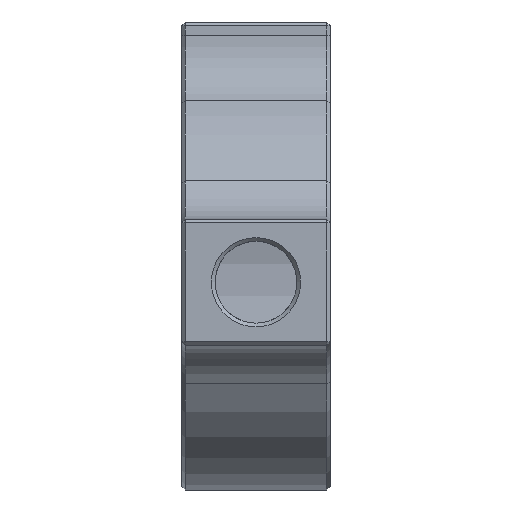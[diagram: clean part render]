
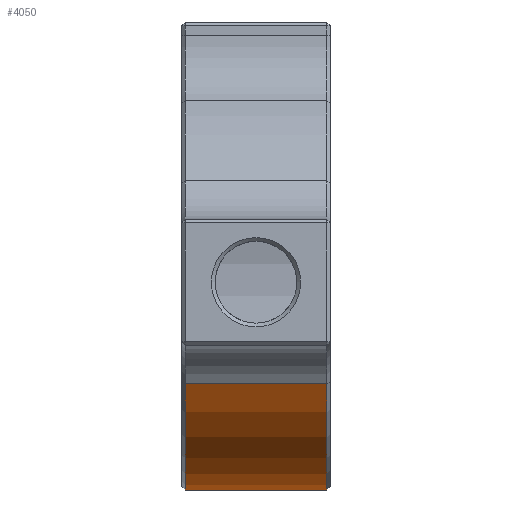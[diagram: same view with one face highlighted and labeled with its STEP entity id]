
A CAD part, left-side view. The second image highlights one B-rep face of the part: STEP entity #4050.
In plain terms, the highlighted cylindrical face has radius 28 mm (diameter 56 mm), a partial arc.
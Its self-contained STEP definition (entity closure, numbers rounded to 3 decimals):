
#242 = LINE ( 'NONE', #6822, #1316 ) ;
#275 = EDGE_CURVE ( 'NONE', #3281, #5897, #962, .T. ) ;
#399 = EDGE_CURVE ( 'NONE', #789, #1120, #4716, .T. ) ;
#691 = CYLINDRICAL_SURFACE ( 'NONE', #2591, 28. ) ;
#789 = VERTEX_POINT ( 'NONE', #5126 ) ;
#962 = CIRCLE ( 'NONE', #2321, 28. ) ;
#1120 = VERTEX_POINT ( 'NONE', #6564 ) ;
#1150 = CARTESIAN_POINT ( 'NONE',  ( -24.458, 19.5, -13.632 ) ) ;
#1316 = VECTOR ( 'NONE', #3850, 1000. ) ;
#1486 = DIRECTION ( 'NONE',  ( 0., 1., 0. ) ) ;
#2005 = DIRECTION ( 'NONE',  ( 0., -1., 0. ) ) ;
#2133 = CARTESIAN_POINT ( 'NONE',  ( 0., 19.5, 0. ) ) ;
#2321 = AXIS2_PLACEMENT_3D ( 'NONE', #2133, #2005, #4402 ) ;
#2591 = AXIS2_PLACEMENT_3D ( 'NONE', #4297, #6675, #6128 ) ;
#2738 = EDGE_CURVE ( 'NONE', #1120, #3281, #5149, .T. ) ;
#3281 = VERTEX_POINT ( 'NONE', #1150 ) ;
#3470 = AXIS2_PLACEMENT_3D ( 'NONE', #5354, #5852, #3515 ) ;
#3515 = DIRECTION ( 'NONE',  ( 0., 0., 1. ) ) ;
#3850 = DIRECTION ( 'NONE',  ( 0., -1., 0. ) ) ;
#3877 = ORIENTED_EDGE ( 'NONE', *, *, #2738, .T. ) ;
#4050 = ADVANCED_FACE ( 'NONE', ( #6046 ), #691, .T. ) ;
#4193 = CARTESIAN_POINT ( 'NONE',  ( 19.324, 19.5, -20.263 ) ) ;
#4297 = CARTESIAN_POINT ( 'NONE',  ( 0., 20., 0. ) ) ;
#4402 = DIRECTION ( 'NONE',  ( 0., 0., 1. ) ) ;
#4622 = EDGE_LOOP ( 'NONE', ( #3877, #7145, #7373, #6477 ) ) ;
#4716 = CIRCLE ( 'NONE', #3470, 28. ) ;
#5126 = CARTESIAN_POINT ( 'NONE',  ( 19.324, 0.5, -20.263 ) ) ;
#5149 = LINE ( 'NONE', #6278, #7735 ) ;
#5354 = CARTESIAN_POINT ( 'NONE',  ( 0., 0.5, 0. ) ) ;
#5852 = DIRECTION ( 'NONE',  ( 0., 1., 0. ) ) ;
#5897 = VERTEX_POINT ( 'NONE', #4193 ) ;
#6046 = FACE_OUTER_BOUND ( 'NONE', #4622, .T. ) ;
#6128 = DIRECTION ( 'NONE',  ( 0., 0., -1. ) ) ;
#6278 = CARTESIAN_POINT ( 'NONE',  ( -24.458, 20., -13.632 ) ) ;
#6477 = ORIENTED_EDGE ( 'NONE', *, *, #399, .T. ) ;
#6564 = CARTESIAN_POINT ( 'NONE',  ( -24.458, 0.5, -13.632 ) ) ;
#6625 = EDGE_CURVE ( 'NONE', #5897, #789, #242, .T. ) ;
#6675 = DIRECTION ( 'NONE',  ( 0., -1., 0. ) ) ;
#6822 = CARTESIAN_POINT ( 'NONE',  ( 19.324, 20., -20.263 ) ) ;
#7145 = ORIENTED_EDGE ( 'NONE', *, *, #275, .T. ) ;
#7373 = ORIENTED_EDGE ( 'NONE', *, *, #6625, .T. ) ;
#7735 = VECTOR ( 'NONE', #1486, 1000. ) ;
